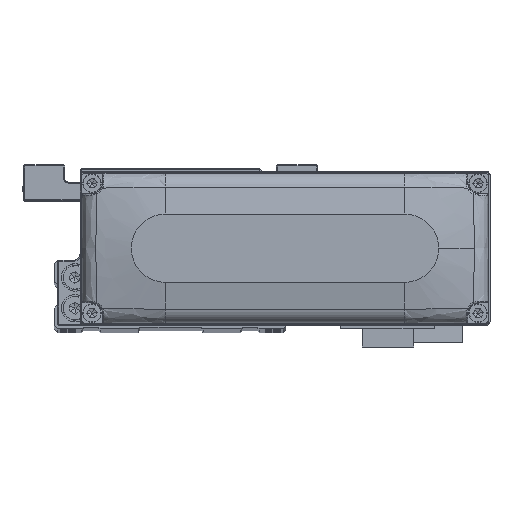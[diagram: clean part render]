
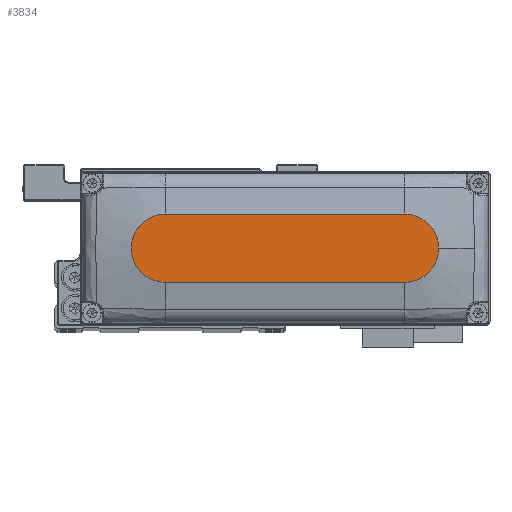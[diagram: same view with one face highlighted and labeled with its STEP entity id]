
A CAD part, top view. The second image highlights one B-rep face of the part: STEP entity #3834.
In plain terms, the highlighted planar face has unit normal (0, 0, 1).
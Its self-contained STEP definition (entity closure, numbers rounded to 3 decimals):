
#60 = CARTESIAN_POINT ( 'NONE',  ( -35., 0., 28. ) ) ;
#247 = ORIENTED_EDGE ( 'NONE', *, *, #30620, .T. ) ;
#567 = CIRCLE ( 'NONE', #23250, 10. ) ;
#705 = VERTEX_POINT ( 'NONE', #34932 ) ;
#1647 = AXIS2_PLACEMENT_3D ( 'NONE', #15389, #27723, #40080 ) ;
#1848 = CARTESIAN_POINT ( 'NONE',  ( 35., 0., 28. ) ) ;
#1905 = FACE_OUTER_BOUND ( 'NONE', #32085, .T. ) ;
#2801 = EDGE_CURVE ( 'NONE', #11961, #705, #36592, .T. ) ;
#3834 = ADVANCED_FACE ( 'NONE', ( #1905 ), #14285, .T. ) ;
#4953 = VERTEX_POINT ( 'NONE', #21372 ) ;
#7212 = LINE ( 'NONE', #19558, #35046 ) ;
#9312 = CARTESIAN_POINT ( 'NONE',  ( -35., -10., 28. ) ) ;
#9496 = VERTEX_POINT ( 'NONE', #37577 ) ;
#11227 = DIRECTION ( 'NONE',  ( 1., 0., 0. ) ) ;
#11961 = VERTEX_POINT ( 'NONE', #27652 ) ;
#12459 = DIRECTION ( 'NONE',  ( 0., 0., 1. ) ) ;
#13377 = AXIS2_PLACEMENT_3D ( 'NONE', #26621, #38974, #11227 ) ;
#13455 = CIRCLE ( 'NONE', #36087, 10. ) ;
#14036 = VECTOR ( 'NONE', #21665, 1000. ) ;
#14234 = DIRECTION ( 'NONE',  ( 0., 0., 1. ) ) ;
#14285 = PLANE ( 'NONE',  #13377 ) ;
#15389 = CARTESIAN_POINT ( 'NONE',  ( 35., 0., 28. ) ) ;
#16711 = EDGE_CURVE ( 'NONE', #9496, #28994, #37058, .T. ) ;
#19558 = CARTESIAN_POINT ( 'NONE',  ( -35., 10., 28. ) ) ;
#21372 = CARTESIAN_POINT ( 'NONE',  ( -35., 10., 28. ) ) ;
#21665 = DIRECTION ( 'NONE',  ( 1., 0., 0. ) ) ;
#23250 = AXIS2_PLACEMENT_3D ( 'NONE', #1848, #14234, #26567 ) ;
#23577 = CARTESIAN_POINT ( 'NONE',  ( 35., -10., 28. ) ) ;
#24809 = DIRECTION ( 'NONE',  ( 1., 0., 0. ) ) ;
#26567 = DIRECTION ( 'NONE',  ( 1., 0., 0. ) ) ;
#26621 = CARTESIAN_POINT ( 'NONE',  ( 0., 0., 28. ) ) ;
#26733 = EDGE_CURVE ( 'NONE', #4953, #9496, #13455, .T. ) ;
#26763 = ORIENTED_EDGE ( 'NONE', *, *, #26733, .T. ) ;
#27652 = CARTESIAN_POINT ( 'NONE',  ( 45., 0., 28. ) ) ;
#27688 = ORIENTED_EDGE ( 'NONE', *, *, #2801, .T. ) ;
#27723 = DIRECTION ( 'NONE',  ( 0., 0., 1. ) ) ;
#28094 = ORIENTED_EDGE ( 'NONE', *, *, #16711, .T. ) ;
#28245 = EDGE_CURVE ( 'NONE', #28994, #11961, #567, .T. ) ;
#28994 = VERTEX_POINT ( 'NONE', #23577 ) ;
#30620 = EDGE_CURVE ( 'NONE', #705, #4953, #7212, .T. ) ;
#31709 = ORIENTED_EDGE ( 'NONE', *, *, #28245, .T. ) ;
#31909 = DIRECTION ( 'NONE',  ( -1., 0., 0. ) ) ;
#32085 = EDGE_LOOP ( 'NONE', ( #247, #26763, #28094, #31709, #27688 ) ) ;
#34932 = CARTESIAN_POINT ( 'NONE',  ( 35., 10., 28. ) ) ;
#35046 = VECTOR ( 'NONE', #31909, 1000. ) ;
#36087 = AXIS2_PLACEMENT_3D ( 'NONE', #60, #12459, #24809 ) ;
#36592 = CIRCLE ( 'NONE', #1647, 10. ) ;
#37058 = LINE ( 'NONE', #9312, #14036 ) ;
#37577 = CARTESIAN_POINT ( 'NONE',  ( -35., -10., 28. ) ) ;
#38974 = DIRECTION ( 'NONE',  ( 0., 0., 1. ) ) ;
#40080 = DIRECTION ( 'NONE',  ( 1., 0., 0. ) ) ;
